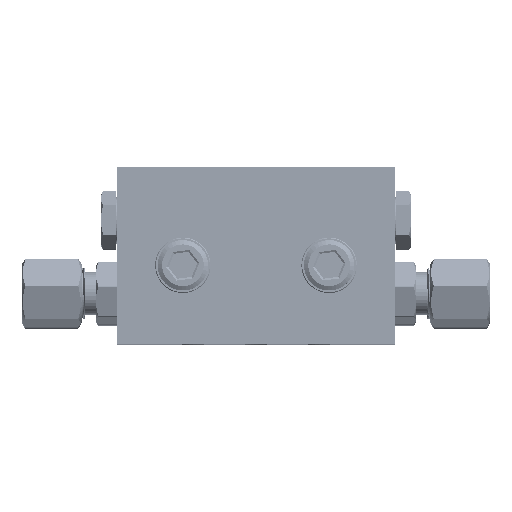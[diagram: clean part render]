
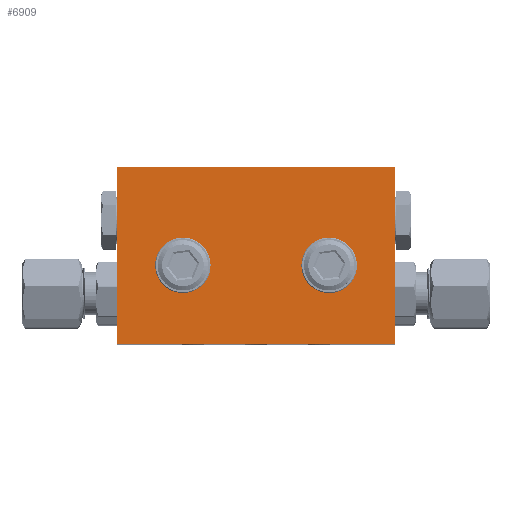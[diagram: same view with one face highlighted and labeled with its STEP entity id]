
A CAD part, top view. The second image highlights one B-rep face of the part: STEP entity #6909.
In plain terms, the highlighted planar face has unit normal (0, 0, 1) as drawn and (0, 0, -1) by its records, which use the part's own axes.
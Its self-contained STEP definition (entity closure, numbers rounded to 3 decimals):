
#757 = DIRECTION ( 'NONE',  ( 0., 0., -1. ) ) ;
#1084 = EDGE_LOOP ( 'NONE', ( #8671 ) ) ;
#1360 = DIRECTION ( 'NONE',  ( 0., 0., -1. ) ) ;
#1555 = PLANE ( 'NONE',  #16155 ) ;
#1927 = EDGE_CURVE ( 'NONE', #25967, #25967, #41857, .T. ) ;
#1996 = CARTESIAN_POINT ( 'NONE',  ( 0., 0., -4.85 ) ) ;
#2865 = ORIENTED_EDGE ( 'NONE', *, *, #1927, .F. ) ;
#3286 = CARTESIAN_POINT ( 'NONE',  ( 27.5, 0., -4.85 ) ) ;
#3487 = DIRECTION ( 'NONE',  ( -1., 0., 0. ) ) ;
#3623 = EDGE_CURVE ( 'NONE', #14279, #7090, #9608, .T. ) ;
#4688 = CARTESIAN_POINT ( 'NONE',  ( 14.5, -15.5, -4.85 ) ) ;
#5717 = DIRECTION ( 'NONE',  ( 0., 0., 1. ) ) ;
#5988 = EDGE_CURVE ( 'NONE', #7090, #7211, #36022, .T. ) ;
#6909 = ADVANCED_FACE ( 'NONE', ( #37634, #10932, #41294 ), #1555, .F. ) ;
#7090 = VERTEX_POINT ( 'NONE', #3286 ) ;
#7211 = VERTEX_POINT ( 'NONE', #8726 ) ;
#8258 = AXIS2_PLACEMENT_3D ( 'NONE', #4688, #757, #20413 ) ;
#8334 = VECTOR ( 'NONE', #3487, 1000. ) ;
#8473 = EDGE_CURVE ( 'NONE', #36646, #36646, #21022, .T. ) ;
#8671 = ORIENTED_EDGE ( 'NONE', *, *, #8473, .F. ) ;
#8726 = CARTESIAN_POINT ( 'NONE',  ( -27.5, 0., -4.85 ) ) ;
#8968 = DIRECTION ( 'NONE',  ( 1., 0., 0. ) ) ;
#9608 = LINE ( 'NONE', #9826, #11785 ) ;
#9826 = CARTESIAN_POINT ( 'NONE',  ( 27.5, 0., -4.85 ) ) ;
#10932 = FACE_BOUND ( 'NONE', #16763, .T. ) ;
#11005 = CARTESIAN_POINT ( 'NONE',  ( 0., -35., -4.85 ) ) ;
#11785 = VECTOR ( 'NONE', #20511, 1000. ) ;
#13526 = ORIENTED_EDGE ( 'NONE', *, *, #5988, .F. ) ;
#14279 = VERTEX_POINT ( 'NONE', #27282 ) ;
#16142 = CARTESIAN_POINT ( 'NONE',  ( 0., 0., -4.85 ) ) ;
#16155 = AXIS2_PLACEMENT_3D ( 'NONE', #1996, #5717, #8968 ) ;
#16763 = EDGE_LOOP ( 'NONE', ( #2865 ) ) ;
#18306 = CARTESIAN_POINT ( 'NONE',  ( 11.4, -15.5, -4.85 ) ) ;
#20015 = CARTESIAN_POINT ( 'NONE',  ( -11.4, -15.5, -4.85 ) ) ;
#20413 = DIRECTION ( 'NONE',  ( -1., 0., 0. ) ) ;
#20511 = DIRECTION ( 'NONE',  ( 0., 1., 0. ) ) ;
#20703 = EDGE_LOOP ( 'NONE', ( #36220, #26449, #13526, #42971 ) ) ;
#21022 = CIRCLE ( 'NONE', #26652, 3.1 ) ;
#21062 = DIRECTION ( 'NONE',  ( 1., 0., 0. ) ) ;
#21497 = LINE ( 'NONE', #11005, #39260 ) ;
#25967 = VERTEX_POINT ( 'NONE', #18306 ) ;
#26449 = ORIENTED_EDGE ( 'NONE', *, *, #42264, .F. ) ;
#26652 = AXIS2_PLACEMENT_3D ( 'NONE', #41315, #1360, #27399 ) ;
#27282 = CARTESIAN_POINT ( 'NONE',  ( 27.5, -35., -4.85 ) ) ;
#27399 = DIRECTION ( 'NONE',  ( 1., 0., 0. ) ) ;
#28872 = VERTEX_POINT ( 'NONE', #40772 ) ;
#30528 = CARTESIAN_POINT ( 'NONE',  ( -27.5, 0., -4.85 ) ) ;
#31215 = VECTOR ( 'NONE', #33812, 1000. ) ;
#33812 = DIRECTION ( 'NONE',  ( 0., -1., 0. ) ) ;
#36022 = LINE ( 'NONE', #16142, #8334 ) ;
#36220 = ORIENTED_EDGE ( 'NONE', *, *, #38334, .F. ) ;
#36646 = VERTEX_POINT ( 'NONE', #20015 ) ;
#37634 = FACE_BOUND ( 'NONE', #1084, .T. ) ;
#38334 = EDGE_CURVE ( 'NONE', #28872, #14279, #21497, .T. ) ;
#39260 = VECTOR ( 'NONE', #21062, 1000. ) ;
#40772 = CARTESIAN_POINT ( 'NONE',  ( -27.5, -35., -4.85 ) ) ;
#41294 = FACE_OUTER_BOUND ( 'NONE', #20703, .T. ) ;
#41315 = CARTESIAN_POINT ( 'NONE',  ( -14.5, -15.5, -4.85 ) ) ;
#41778 = LINE ( 'NONE', #30528, #31215 ) ;
#41857 = CIRCLE ( 'NONE', #8258, 3.1 ) ;
#42264 = EDGE_CURVE ( 'NONE', #7211, #28872, #41778, .T. ) ;
#42971 = ORIENTED_EDGE ( 'NONE', *, *, #3623, .F. ) ;
